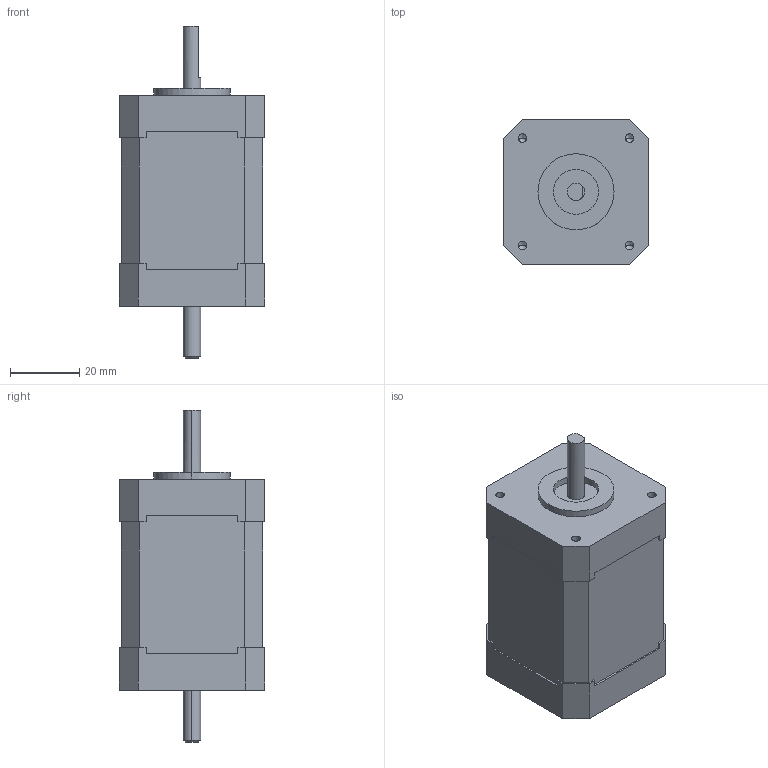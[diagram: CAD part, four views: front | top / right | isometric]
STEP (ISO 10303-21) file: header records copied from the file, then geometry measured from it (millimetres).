
FILE_DESCRIPTION (( 'STEP AP214' ), '1' );
FILE_NAME ('TS3617N604.STEP', '2016-09-08T08:30:39', ( 'hoho' ), ( '' ), 'SwSTEP 2.0', 'SolidWorks 2013', '' );
FILE_SCHEMA (( 'AUTOMOTIVE_DESIGN' ));
Length unit declared in the file: millimetre
Products named in the file (1): TS3617N604
Bounding box: 42 x 42 x 96 mm (x, y, z)
Volume: 102003.8 mm3; surface area: 13823 mm2
Topology: 1 solids, 1 shells, 90 faces, 242 edges, 154 vertices
Faces by surface type: plane 64, cylinder 16, cone 10
Entity records: 2936 total; most frequent: CARTESIAN_POINT 479, ORIENTED_EDGE 468, DIRECTION 452, EDGE_CURVE 234, VECTOR 198, LINE 198, VERTEX_POINT 154, AXIS2_PLACEMENT_3D 127
